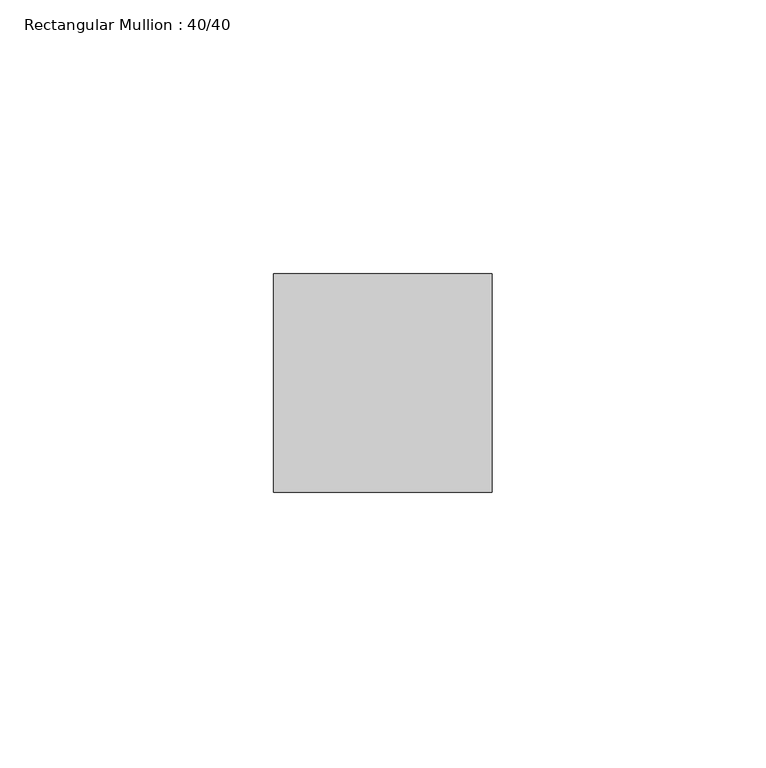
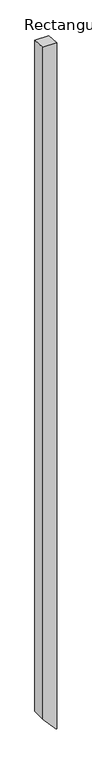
"""IFC4 building model written with IfcOpenShell, lengths in millimetres: member geometry, Rectangular Mullion : 40/40."""

import ifcopenshell
import ifcopenshell.guid

model = None  # the IFC model being written
_history = None  # IfcOwnerHistory: only IFC2X3 demands one
_inside = {}  # id of a spatial element -> (the spatial element, [elements in it])
_under = {}  # id of a project, library or spatial element -> (it, [spatial elements below it])
_declared = {}  # id of a project -> (the project, [libraries it declares])
_typed = {}  # id of a type object -> (the type object, [elements of that type])
_made_of = {}  # id of a material, layer set ... -> (it, [elements and type objects made of it])


def new_model(schema):
    """Start an empty IFC model of exactly this schema.

    Asked for "IFC4X3", IfcOpenShell would pick the latest addendum, in which some entities
    have other attributes; the version numbers below select the first issue.
    IFC2X3 requires an IfcOwnerHistory on every rooted entity: one is made here for all.
    """
    global model, _history
    if schema == "IFC4X3":
        model = ifcopenshell.file(schema_version=(4, 3, 0, 0))
    else:
        model = ifcopenshell.file(schema=schema)
    _inside.clear()
    _under.clear()
    _declared.clear()
    _typed.clear()
    _made_of.clear()
    _history = None
    if model.schema == "IFC2X3":
        org = make("IfcOrganization", Name="unknown")
        user = make(
            "IfcPersonAndOrganization",
            ThePerson=make("IfcPerson", FamilyName="unknown"),
            TheOrganization=org,
        )
        app = make(
            "IfcApplication",
            ApplicationDeveloper=org,
            Version="unknown",
            ApplicationFullName="unknown",
            ApplicationIdentifier="unknown",
        )
        _history = make(
            "IfcOwnerHistory",
            OwningUser=user,
            OwningApplication=app,
            ChangeAction="ADDED",
            CreationDate=0,
        )
    return model


def make(cls, **values):
    """One entity of the class cls with the attributes given. An attribute that is None is left unset."""
    return model.create_entity(
        cls, **{name: value for name, value in values.items() if value is not None}
    )


def rooted(cls, **values):
    """An entity with a GlobalId (a new one), such as an element, a storey or a relation."""
    return make(cls, GlobalId=ifcopenshell.guid.new(), OwnerHistory=_history, **values)


def si_unit(unit_type, name, prefix=None):
    """IfcSIUnit, for example si_unit("LENGTHUNIT", "METRE", prefix="MILLI")."""
    return make("IfcSIUnit", UnitType=unit_type, Prefix=prefix, Name=name)


def assignment(units):
    """IfcUnitAssignment: the units of a project."""
    return None if units is None else make("IfcUnitAssignment", Units=units)


def point(xyz):
    """IfcCartesianPoint."""
    return None if xyz is None else make("IfcCartesianPoint", Coordinates=xyz)


def direction(xyz):
    """IfcDirection."""
    return None if xyz is None else make("IfcDirection", DirectionRatios=xyz)


def frame(location, z_axis=None, x_axis=None):
    """IfcAxis2Placement3D, a coordinate frame: its origin and axes. An axis left out is left unset."""
    return make(
        "IfcAxis2Placement3D",
        Location=point(location),
        Axis=direction(z_axis),
        RefDirection=direction(x_axis),
    )


def origin():
    """The frame at (0, 0, 0) with its axes left unset."""
    return frame((0.0, 0.0, 0.0))


def place(relative_to, where):
    """IfcLocalPlacement: puts the frame where relative to a parent placement (None: the world)."""
    return make(
        "IfcLocalPlacement", PlacementRelTo=relative_to, RelativePlacement=where
    )


def context(
    kind, dimensions, precision=None, world=None, true_north=None, identifier=None
):
    """IfcGeometricRepresentationContext, for example the 3D "Model" context."""
    return make(
        "IfcGeometricRepresentationContext",
        ContextIdentifier=identifier,
        ContextType=kind,
        CoordinateSpaceDimension=dimensions,
        Precision=precision,
        WorldCoordinateSystem=world,
        TrueNorth=true_north,
    )


def project(units=None, contexts=None):
    """IfcProject with its units and contexts."""
    return rooted(
        "IfcProject",
        Name="project",
        RepresentationContexts=contexts,
        UnitsInContext=assignment(units),
    )


def spatial(cls, under=None, at=None, **own):
    """A site, building, storey or space (cls), placed at a placement, below another one or the project."""
    s = rooted(cls, ObjectPlacement=at, **own)
    if under is not None:
        _under.setdefault(under.id(), (under, []))[1].append(s)
    return s


def circle_curve(where, radius):
    """IfcCircle in the frame where."""
    return make("IfcCircle", Position=where, Radius=radius)


def shape(context_of_items, identifier, shape_type, items):
    """IfcShapeRepresentation: the items that make up one representation, for example the "Body"."""
    return make(
        "IfcShapeRepresentation",
        ContextOfItems=context_of_items,
        RepresentationIdentifier=identifier,
        RepresentationType=shape_type,
        Items=items,
    )


def source(mapping_origin, context_of_items, identifier, shape_type, items):
    """IfcRepresentationMap: a shape defined once, which mapped items show again and again."""
    return make(
        "IfcRepresentationMap",
        MappingOrigin=mapping_origin,
        MappedRepresentation=shape(context_of_items, identifier, shape_type, items),
    )


def transform(
    local_origin,
    x_axis=None,
    y_axis=None,
    z_axis=None,
    scale=None,
    scale2=None,
    scale3=None,
    uniform=True,
):
    """IfcCartesianTransformationOperator3D, or its non-uniform kind. x_axis, y_axis, z_axis: its Axis1, 2, 3."""
    if uniform:
        return make(
            "IfcCartesianTransformationOperator3D",
            Axis1=direction(x_axis),
            Axis2=direction(y_axis),
            LocalOrigin=point(local_origin),
            Scale=scale,
            Axis3=direction(z_axis),
        )
    return make(
        "IfcCartesianTransformationOperator3DnonUniform",
        Axis1=direction(x_axis),
        Axis2=direction(y_axis),
        LocalOrigin=point(local_origin),
        Scale=scale,
        Axis3=direction(z_axis),
        Scale2=scale2,
        Scale3=scale3,
    )


def mapped(mapping_source, mapping_target):
    """IfcMappedItem: shows the shape of a source again, moved by a transform."""
    return make(
        "IfcMappedItem", MappingSource=mapping_source, MappingTarget=mapping_target
    )


def made_of(thing, what):
    """Note that an element or type object is made of a material, layer set ...; save() writes the relation."""
    if what is not None:
        _made_of.setdefault(what.id(), (what, []))[1].append(thing)
    return thing


def element(
    cls,
    number,
    at=None,
    inside=None,
    cuts=None,
    type_object=None,
    material=None,
    context=None,
    identifier="Body",
    shape_type=None,
    held_by="IfcProductDefinitionShape",
    body=None,
    shapes=None,
    **own,
):
    """One element of the class cls, such as IfcWall. Its Tag is "e" and its number.

    at: its placement. inside: the storey or other place that contains it. cuts: it is an
    opening in that element (IfcRelVoidsElement). A single representation is given by context,
    identifier, shape_type and body (its items); several are given by shapes. held_by: the class
    of the entity that holds the representations. save() writes the other relations.
    """
    e = rooted(cls, Tag="e%d" % number, ObjectPlacement=at, **own)
    if body is not None:
        shapes = [shape(context, identifier, shape_type, body)]
    if shapes is not None:
        e.Representation = make(held_by, Representations=shapes)
    if inside is not None:
        _inside.setdefault(inside.id(), (inside, []))[1].append(e)
    if cuts is not None:
        rooted(
            "IfcRelVoidsElement", RelatingBuildingElement=cuts, RelatedOpeningElement=e
        )
    if type_object is not None:
        _typed.setdefault(type_object.id(), (type_object, []))[1].append(e)
    return made_of(e, material)


def aggregate(whole, parts):
    """IfcRelAggregates: a whole, such as a stair, and the parts it consists of."""
    return rooted("IfcRelAggregates", RelatingObject=whole, RelatedObjects=parts)


def save(model, path):
    """Write the relations noted so far, then the file.

    IfcRelAggregates (storeys below a building ...), IfcRelContainedInSpatialStructure (elements
    in a storey), IfcRelDefinesByType, IfcRelAssociatesMaterial and IfcRelDeclares: one each for
    every whole, place, type object, material and project.
    """
    for whole, parts in _under.values():
        aggregate(whole, parts)
    for where, things in _inside.values():
        rooted(
            "IfcRelContainedInSpatialStructure",
            RelatedElements=things,
            RelatingStructure=where,
        )
    for kind, things in _typed.values():
        rooted("IfcRelDefinesByType", RelatedObjects=things, RelatingType=kind)
    for what, things in _made_of.values():
        rooted("IfcRelAssociatesMaterial", RelatedObjects=things, RelatingMaterial=what)
    for by, libraries in _declared.values():
        rooted("IfcRelDeclares", RelatingContext=by, RelatedDefinitions=libraries)
    model.write(path)


def plane_surface(at):
    """IfcPlane: the flat surface through the origin of the frame at, square to its z axis."""
    return make("IfcPlane", Position=at)


def cylinder_surface(at, radius):
    """IfcCylindricalSurface: all points at the distance radius from the z axis of the frame at."""
    return make("IfcCylindricalSurface", Position=at, Radius=radius)


def advanced_brep(points, edges, surfaces, faces):
    """IfcAdvancedBrep: a solid bounded by faces that lie on surfaces and meet in shared edges.

    An edge is (start, end): straight between two places in points (the first is 0);
    or (start, end, curve); or (start, end, curve, False) where it runs against its curve.
    A face is (place in surfaces, loops), or (place, loops, False) where it looks against
    its surface's normal. A loop lists edges by number (the first is 1), with a minus sign
    where the edge is run from its end to its start. The first loop is the outer one.
    """
    corners = [point(p) for p in points]
    vertices = [make("IfcVertexPoint", VertexGeometry=c) for c in corners]
    made = []
    for start, end, *more in edges:
        made.append(
            make(
                "IfcEdgeCurve",
                EdgeStart=vertices[start],
                EdgeEnd=vertices[end],
                EdgeGeometry=more[0] if more else make("IfcPolyline", Points=[corners[start], corners[end]]),
                SameSense=more[1] if len(more) > 1 else True,
            )
        )
    hull = []
    for where, loops, *sense in faces:
        bounds = []
        for j, loop in enumerate(loops):
            ring = [make("IfcOrientedEdge", EdgeElement=made[abs(k) - 1], Orientation=k > 0) for k in loop]
            bounds.append(
                make(
                    "IfcFaceOuterBound" if j == 0 else "IfcFaceBound",
                    Bound=make("IfcEdgeLoop", EdgeList=ring),
                    Orientation=True,
                )
            )
        hull.append(make("IfcAdvancedFace", Bounds=bounds, FaceSurface=surfaces[where], SameSense=sense[0] if sense else True))
    return make("IfcAdvancedBrep", Outer=make("IfcClosedShell", CfsFaces=hull))


def rectangular_mullion_40_40_a7a4ca4f(model_context):
    return source(origin(), model_context, "Body", "AdvancedBrep", [
        advanced_brep(
        [(-20.0, 20.0, -1.3985362), (20.0, 20.0, -1.3985362), (20.0, 20.0, -2090.1890334), (17.6431166, 20.0, -2090.1890334), (-20.0, 20.0, -2047.7536376), (-20.0, -20.0, 1.3985362), (-20.0, -20.0, -2047.7536376), (20.0, -20.0, 1.3985362), (17.6431166, -20.0, -2090.1890334), (20.0, -20.0, -2090.1890334)],
        [
            (0, 1),
            (1, 2),
            (2, 3),
            (3, 4, circle_curve(frame((2330.4684272, 20.0, -0.6400946), z_axis=(0.0, 1.0, 0.0), x_axis=(-0.7382209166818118, 0.0, -0.6745590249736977)), 3116.9497405)),
            (4, 0),
            (5, 0),
            (4, 6),
            (6, 5),
            (7, 5),
            (6, 8, circle_curve(frame((2330.4684272, -20.0, -0.6400946), z_axis=(0.0, -1.0, 0.0), x_axis=(-0.7382209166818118, 0.0, -0.6745590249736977)), 3116.9497405)),
            (8, 9),
            (9, 7),
            (1, 7),
            (9, 2),
            (8, 3),
        ],
        [
            plane_surface(frame((20.0, 20.0, 0.0), z_axis=(0.0, 1.0, 0.0), x_axis=(0.0, 0.0, -1.0))),
            plane_surface(frame((-20.0, 20.0, 0.0), z_axis=(-1.0, 0.0, 0.0), x_axis=(0.0, 0.0, -1.0))),
            plane_surface(frame((-20.0, -20.0, 0.0), z_axis=(0.0, -1.0, 0.0), x_axis=(0.0, 0.0, -1.0))),
            plane_surface(frame((20.0, -20.0, 0.0), z_axis=(1.0, 0.0, 0.0), x_axis=(0.0, 0.0, -1.0))),
            plane_surface(frame((-304.8, 0.0, 0.0), z_axis=(0.0, 0.06975647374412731, 0.9975640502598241), x_axis=(0.0, 0.9975640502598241, -0.06975647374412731))),
            plane_surface(frame((592.613098, 20.0, -2090.1890334), z_axis=(0.0, 0.0, -1.0), x_axis=(-1.0, 0.0, 0.0))),
            cylinder_surface(frame((2330.4684272, 0.0, -0.6400946), z_axis=(0.0, 1.0, 0.0), x_axis=(-0.7382209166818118, 0.0, -0.6745590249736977)), 3116.9497405),
        ],
        [
            (0, [[1, 2, 3, 4, 5]]),
            (1, [[6, -5, 7, 8]]),
            (2, [[9, -8, 10, 11, 12]]),
            (3, [[13, -12, 14, -2]]),
            (4, [[-1, -6, -9, -13]]),
            (5, [[-14, -11, 15, -3]]),
            (6, [[-10, -7, -4, -15]]),
        ],
    ),
    ])


if __name__ == "__main__":
    model = new_model("IFC4")
    model_context = context("Model", 3, world=origin())
    ifc_project = project(units=[si_unit("LENGTHUNIT", "METRE", prefix="MILLI")], contexts=[model_context])
    site = spatial("IfcSite", under=ifc_project)
    building = spatial("IfcBuilding", under=site)
    placement = place(None, origin())
    rectangular_mullion_40_40_shape = rectangular_mullion_40_40_a7a4ca4f(model_context)
    element("IfcMember", 1, ObjectType="Rectangular Mullion : 40/40", at=placement, inside=building, context=model_context, shape_type="MappedRepresentation", body=[
        mapped(rectangular_mullion_40_40_shape, transform((0.0, 0.0, 0.0), x_axis=(1.0, 0.0, 0.0), y_axis=(0.0, 1.0, 0.0), z_axis=(0.0, 0.0, 1.0))),
    ])
    save(model, "model.ifc")
